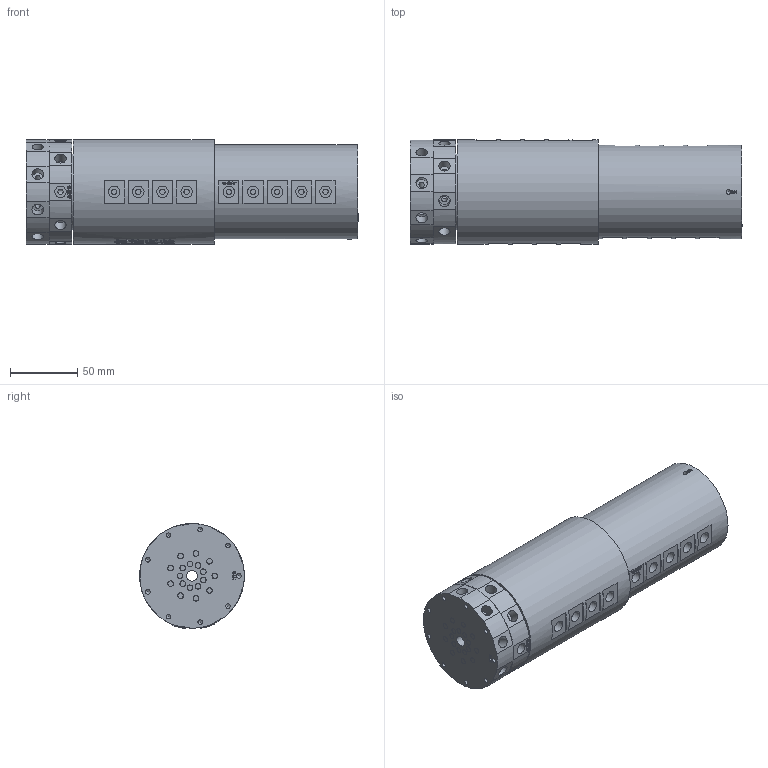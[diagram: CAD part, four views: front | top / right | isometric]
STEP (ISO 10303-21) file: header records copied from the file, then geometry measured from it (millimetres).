
FILE_DESCRIPTION(/* description */ (''),/* implementation_level */ '2;1');
FILE_NAME(/* name */ 'HQ1801.stp',/* time_stamp */ '2025-02-10T12:00:24+08:00',/* author */ (''),/* organization */ (''),/* preprocessor_version */ 'ST-DEVELOPER v16.7',/* originating_system */ 'SIEMENS PLM Software NX 12.0',/* authorisation */ '');
FILE_SCHEMA (('AUTOMOTIVE_DESIGN { 1 0 10303 214 3 1 1 1 }'));
Products named in the file (1): HX051AD4EB6Ag1an
Bounding box: 247.4 x 78 x 78.17 mm (x, y, z)
Volume: 1027360.8 mm3; surface area: 102604.9 mm2
Topology: 1 solids, 1 shells, 992 faces, 2366 edges, 1596 vertices
Faces by surface type: plane 621, cylinder 196, extrusion 103, bspline 56, cone 16
Full cylindrical faces by diameter (mm): 2 x2, 3.4 x11, 4 x54, 4.1 x18, 4.2 x22, 8 x1, 8.5 x36, 33 x1, 35 x1, 55 x1, 57 x1, 70 x1, 78 x2
Entity records: 45320 total; most frequent: CARTESIAN_POINT 24988, ORIENTED_EDGE 4098, DIRECTION 3539, EDGE_CURVE 2049, VERTEX_POINT 1498, EDGE_LOOP 1412, AXIS2_PLACEMENT_3D 1411, ADVANCED_FACE 989
